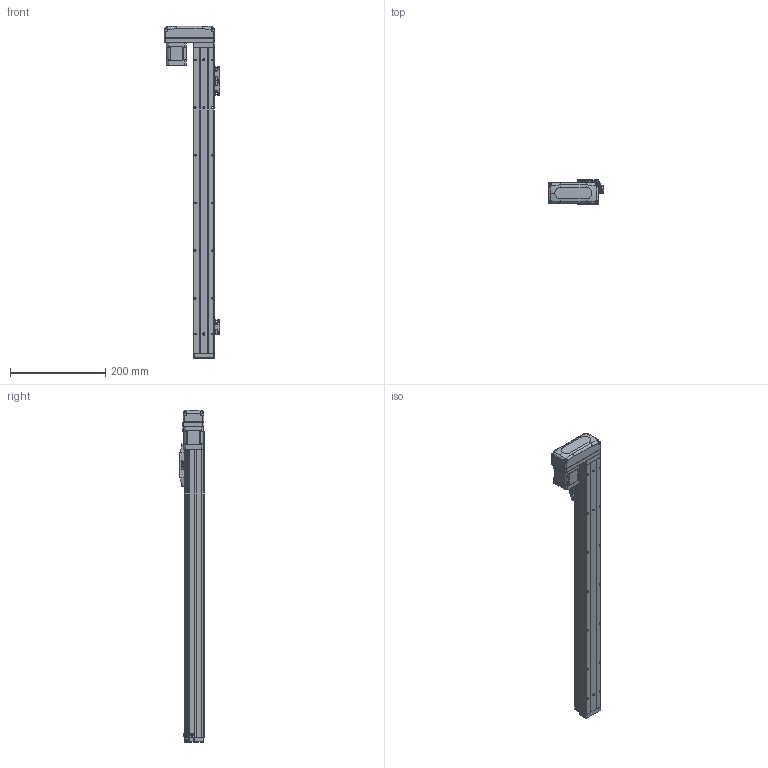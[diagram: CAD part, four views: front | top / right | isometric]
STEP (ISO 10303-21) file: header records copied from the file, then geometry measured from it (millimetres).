
FILE_DESCRIPTION (( 'STEP AP203' ), '1' );
FILE_NAME ('GTH4-500-BR-B42-C4.step', '2023-02-14T00:26:53', ( '微软用户' ), ( '微软中国' ), 'SwSTEP 2.0', 'SolidWorks 2020', '' );
FILE_SCHEMA (( 'CONFIG_CONTROL_DESIGN' ));
Length unit declared in the file: millimetre
Products named in the file (19): BTH40-027-1; GBT96.1-2002 3×0.8; BTH40-003; BTH50-026; BTH40-022; BTH40-006; 42CM06; GBT70.1-2000 M3×16; GBT 70.1-M2.5×6; BTH-M3X5X6; GTH4-500-BR-B42-C4; BTH50-028; BTH40-004; BTH50-023; BTH40-013; BTH50-024; GBT 70.3-M3℅6; GBT 70.1-M3℅6; BTH40-001-50_BTH40-001-500
Assembly tree (47 placements, depth 2):
  GTH4-500-BR-B42-C4
    BTH40-001-50_BTH40-001-500
    BTH40-003
    BTH40-006
    BTH-M3X5X6  x8
    GBT70.1-2000 M3×16  x4
    BTH50-028  x2
    BTH50-023  x3
    BTH50-024  x3
    GBT 70.1-M3℅6  x6
    GBT96.1-2002 3×0.8  x6
    BTH40-022
    GBT 70.1-M2.5×6  x2
    BTH40-004
    BTH40-013
    GBT 70.3-M3℅6  x4
    BTH40-027-1
    BTH50-026
    42CM06
Bounding box: 116.2 x 52 x 696 mm (x, y, z)
Volume: 1224784.1 mm3; surface area: 238592.4 mm2
Topology: 56 solids, 56 shells, 3339 faces, 7784 edges, 4654 vertices
Faces by surface type: cone 1508, plane 1076, cylinder 577, torus 124, bspline 42, sphere 12
Entity records: 78038 total; most frequent: CARTESIAN_POINT 14065, DIRECTION 13873, ORIENTED_EDGE 12214, EDGE_CURVE 6107, AXIS2_PLACEMENT_3D 5325, VERTEX_POINT 3641, LINE 3223, VECTOR 3223
